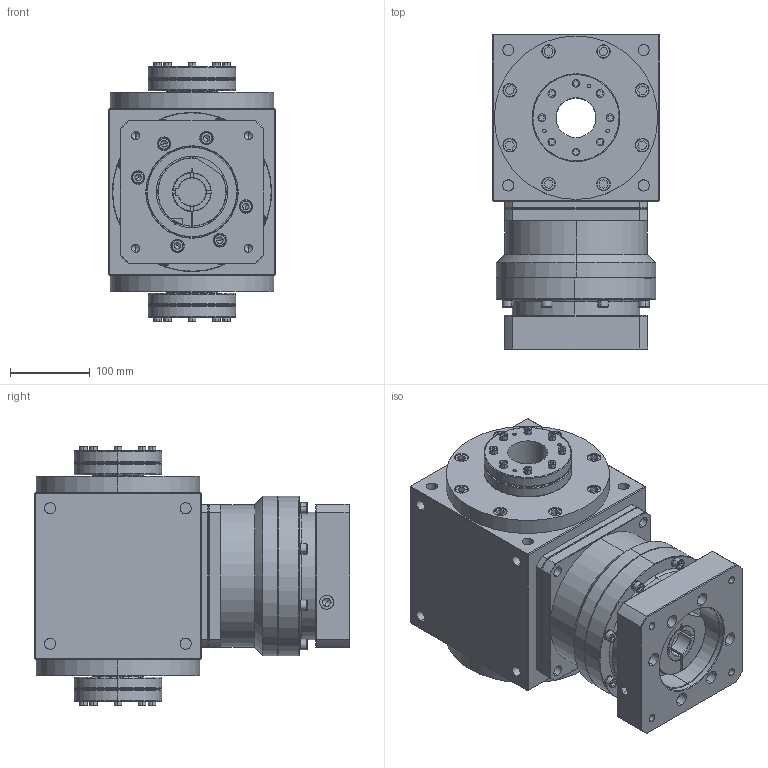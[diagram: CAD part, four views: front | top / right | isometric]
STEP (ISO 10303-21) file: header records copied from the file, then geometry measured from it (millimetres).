
FILE_DESCRIPTION (( 'STEP AP203' ), '1' );
FILE_NAME ('AT210-FC-L1 35-114.3-200-M12.STEP', '2024-12-26T07:21:42', ( '' ), ( '' ), 'SwSTEP 2.0', 'SolidWorks 2021', '' );
FILE_SCHEMA (( 'CONFIG_CONTROL_DESIGN' ));
Length unit declared in the file: millimetre
Products named in the file (3): AT210-FC-L1 35-114.3-200-M12; KS180L1-114.3-35-82-M12-200俋倛芞; AT210-FC
Assembly tree (2 placements, depth 2):
  AT210-FC-L1 35-114.3-200-M12
    AT210-FC
    KS180L1-114.3-35-82-M12-200俋倛芞
Bounding box: 210 x 396 x 326 mm (x, y, z)
Volume: 15224771.2 mm3; surface area: 847545.9 mm2
Topology: 36 solids, 36 shells, 1397 faces, 3274 edges, 2043 vertices
Faces by surface type: plane 716, cylinder 482, cone 147, bspline 52
Entity records: 40650 total; most frequent: CARTESIAN_POINT 8524, DIRECTION 6799, ORIENTED_EDGE 6444, EDGE_CURVE 3222, AXIS2_PLACEMENT_3D 2520, VERTEX_POINT 2043, LINE 1759, VECTOR 1759
